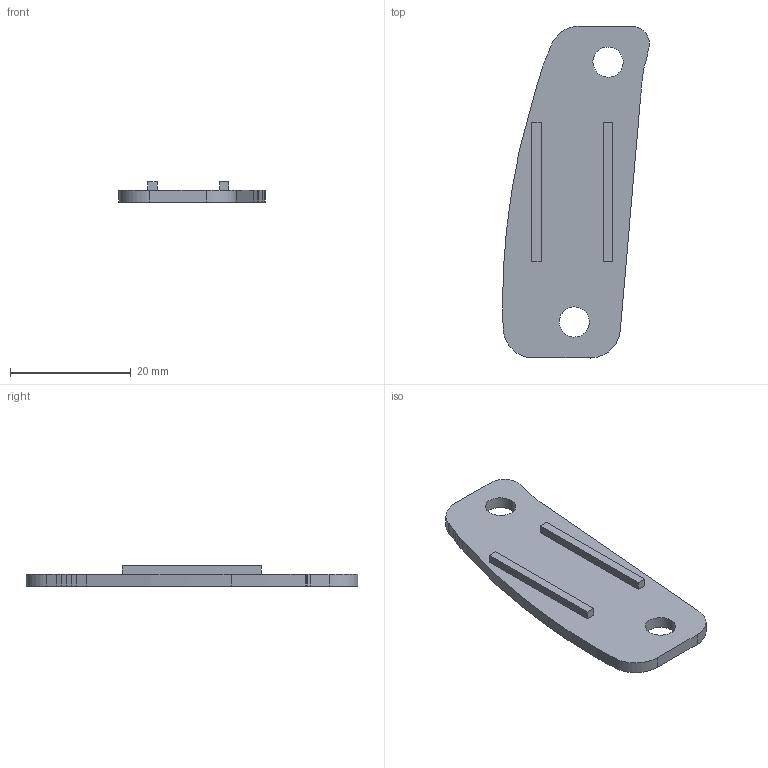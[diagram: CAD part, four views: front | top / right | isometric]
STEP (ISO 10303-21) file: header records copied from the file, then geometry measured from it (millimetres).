
FILE_DESCRIPTION(/* description */ (''),/* implementation_level */ '2;1');
FILE_NAME(/* name */ 'tpu L',/* time_stamp */ '2026-04-11T10:50:35+09:00',/* author */ (''),/* organization */ (''),/* preprocessor_version */ 'ST-DEVELOPER v16.5',/* originating_system */ '',/* authorisation */ '');
FILE_SCHEMA (('CONFIG_CONTROL_DESIGN'));
Length unit declared in the file: millimetre
Products named in the file (1): Document
Bounding box: 24.3 x 54.91 x 3.36 mm (x, y, z)
Volume: 2045.6 mm3; surface area: 2447.8 mm2
Topology: 1 solids, 1 shells, 46 faces, 126 edges, 84 vertices
Faces by surface type: bspline 24, plane 12, cylinder 10
Entity records: 1892 total; most frequent: CARTESIAN_POINT 1010, ORIENTED_EDGE 252, EDGE_CURVE 126, B_SPLINE_CURVE_WITH_KNOTS 96, VERTEX_POINT 84, EDGE_LOOP 52, ADVANCED_FACE 46, FACE_OUTER_BOUND 46
